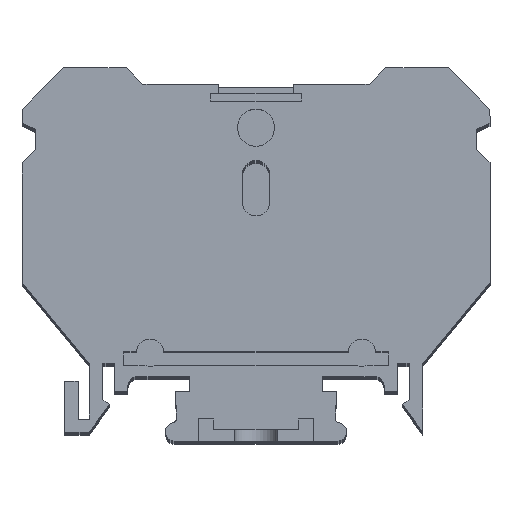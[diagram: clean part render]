
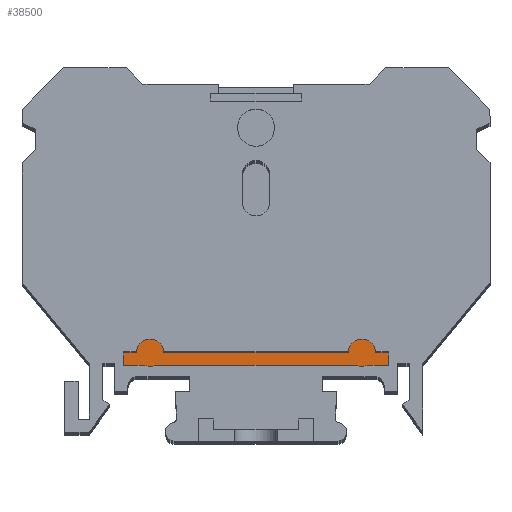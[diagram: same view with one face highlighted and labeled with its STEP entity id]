
A CAD part, top view. The second image highlights one B-rep face of the part: STEP entity #38500.
In plain terms, the highlighted planar face has unit normal (0, 0, 1).
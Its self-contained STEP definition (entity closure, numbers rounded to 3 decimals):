
#3859 = FACE_OUTER_BOUND ( 'NONE', #31428, .T. ) ;
#6266 = CARTESIAN_POINT ( 'NONE',  ( -12., 10., -1.3 ) ) ;
#6267 = PLANE ( 'NONE',  #69587 ) ;
#6272 = DIRECTION ( 'NONE',  ( 0., 0., 1. ) ) ;
#6273 = DIRECTION ( 'NONE',  ( 1., 0., 0. ) ) ;
#9017 = AXIS2_PLACEMENT_3D ( 'NONE', #9607, #9609, #9610 ) ;
#9020 = AXIS2_PLACEMENT_3D ( 'NONE', #9605, #9619, #9620 ) ;
#9269 = AXIS2_PLACEMENT_3D ( 'NONE', #19481, #19494, #19496 ) ;
#9271 = AXIS2_PLACEMENT_3D ( 'NONE', #19486, #19500, #19502 ) ;
#9599 = CARTESIAN_POINT ( 'NONE',  ( -15., 8.6, -1.3 ) ) ;
#9605 = CARTESIAN_POINT ( 'NONE',  ( 12., 10., -1.3 ) ) ;
#9606 = DIRECTION ( 'NONE',  ( 1., 0., 0. ) ) ;
#9607 = CARTESIAN_POINT ( 'NONE',  ( -12., 10., -1.3 ) ) ;
#9609 = DIRECTION ( 'NONE',  ( 0., 0., 1. ) ) ;
#9610 = DIRECTION ( 'NONE',  ( 1., 0., 0. ) ) ;
#9611 = CARTESIAN_POINT ( 'NONE',  ( -15., 10.1, -1.3 ) ) ;
#9612 = DIRECTION ( 'NONE',  ( -1., 0., 0. ) ) ;
#9613 = CARTESIAN_POINT ( 'NONE',  ( -15., 10.1, -1.3 ) ) ;
#9614 = DIRECTION ( 'NONE',  ( 0., -1., 0. ) ) ;
#9615 = CARTESIAN_POINT ( 'NONE',  ( -15., 8.6, -1.3 ) ) ;
#9616 = DIRECTION ( 'NONE',  ( 1., 0., 0. ) ) ;
#9617 = CARTESIAN_POINT ( 'NONE',  ( -15., 8.6, -1.3 ) ) ;
#9618 = DIRECTION ( 'NONE',  ( 1., 0., 0. ) ) ;
#9619 = DIRECTION ( 'NONE',  ( 0., 0., 1. ) ) ;
#9620 = DIRECTION ( 'NONE',  ( 1., 0., 0. ) ) ;
#9621 = CARTESIAN_POINT ( 'NONE',  ( -15., 10.1, -1.3 ) ) ;
#9622 = DIRECTION ( 'NONE',  ( -1., 0., 0. ) ) ;
#9623 = CARTESIAN_POINT ( 'NONE',  ( 15., 10.1, -1.3 ) ) ;
#9624 = DIRECTION ( 'NONE',  ( 0., 1., 0. ) ) ;
#9625 = CARTESIAN_POINT ( 'NONE',  ( -15., 10.1, -1.3 ) ) ;
#9626 = DIRECTION ( 'NONE',  ( -1., 0., 0. ) ) ;
#10717 = LINE ( 'NONE', #9599, #10742 ) ;
#10737 = VECTOR ( 'NONE', #9612, 1000. ) ;
#10742 = VECTOR ( 'NONE', #9606, 1000. ) ;
#10743 = LINE ( 'NONE', #9611, #10737 ) ;
#10745 = LINE ( 'NONE', #9621, #10746 ) ;
#10746 = VECTOR ( 'NONE', #9622, 1000. ) ;
#10747 = CIRCLE ( 'NONE', #9017, 1.55 ) ;
#10748 = LINE ( 'NONE', #9613, #10749 ) ;
#10749 = VECTOR ( 'NONE', #9614, 1000. ) ;
#10750 = LINE ( 'NONE', #9615, #10751 ) ;
#10751 = VECTOR ( 'NONE', #9616, 1000. ) ;
#10752 = LINE ( 'NONE', #9617, #10753 ) ;
#10753 = VECTOR ( 'NONE', #9618, 1000. ) ;
#10756 = CIRCLE ( 'NONE', #9020, 1.55 ) ;
#10757 = LINE ( 'NONE', #9623, #10758 ) ;
#10758 = VECTOR ( 'NONE', #9624, 1000. ) ;
#10759 = LINE ( 'NONE', #9625, #10760 ) ;
#10760 = VECTOR ( 'NONE', #9626, 1000. ) ;
#17900 = CIRCLE ( 'NONE', #9269, 1.55 ) ;
#17902 = CIRCLE ( 'NONE', #9271, 1.55 ) ;
#19481 = CARTESIAN_POINT ( 'NONE',  ( 12., 10., -1.3 ) ) ;
#19486 = CARTESIAN_POINT ( 'NONE',  ( -12., 10., -1.3 ) ) ;
#19494 = DIRECTION ( 'NONE',  ( 0., 0., 1. ) ) ;
#19496 = DIRECTION ( 'NONE',  ( 1., 0., 0. ) ) ;
#19500 = DIRECTION ( 'NONE',  ( 0., 0., 1. ) ) ;
#19502 = DIRECTION ( 'NONE',  ( 1., 0., 0. ) ) ;
#21946 = VERTEX_POINT ( 'NONE', #65675 ) ;
#21949 = VERTEX_POINT ( 'NONE', #65677 ) ;
#21959 = VERTEX_POINT ( 'NONE', #65683 ) ;
#21961 = VERTEX_POINT ( 'NONE', #65684 ) ;
#22532 = CARTESIAN_POINT ( 'NONE',  ( -13.547, 10.1, -1.3 ) ) ;
#22533 = CARTESIAN_POINT ( 'NONE',  ( -10.453, 10.1, -1.3 ) ) ;
#22534 = CARTESIAN_POINT ( 'NONE',  ( -15., 10.1, -1.3 ) ) ;
#22535 = CARTESIAN_POINT ( 'NONE',  ( -15., 8.6, -1.3 ) ) ;
#22536 = CARTESIAN_POINT ( 'NONE',  ( 15., 8.6, -1.3 ) ) ;
#22537 = CARTESIAN_POINT ( 'NONE',  ( 15., 10.1, -1.3 ) ) ;
#22538 = CARTESIAN_POINT ( 'NONE',  ( 13.547, 10.1, -1.3 ) ) ;
#22539 = CARTESIAN_POINT ( 'NONE',  ( 10.453, 10.1, -1.3 ) ) ;
#31428 = EDGE_LOOP ( 'NONE', ( #32065, #32066, #32067, #32068, #32069, #32070, #32071, #32072, #32073, #32074, #32075, #32076 ) ) ;
#32065 = ORIENTED_EDGE ( 'NONE', *, *, #39310, .T. ) ;
#32066 = ORIENTED_EDGE ( 'NONE', *, *, #39311, .T. ) ;
#32067 = ORIENTED_EDGE ( 'NONE', *, *, #39312, .T. ) ;
#32068 = ORIENTED_EDGE ( 'NONE', *, *, #39313, .T. ) ;
#32069 = ORIENTED_EDGE ( 'NONE', *, *, #42381, .T. ) ;
#32070 = ORIENTED_EDGE ( 'NONE', *, *, #39314, .T. ) ;
#32071 = ORIENTED_EDGE ( 'NONE', *, *, #42380, .T. ) ;
#32072 = ORIENTED_EDGE ( 'NONE', *, *, #39309, .T. ) ;
#32073 = ORIENTED_EDGE ( 'NONE', *, *, #39317, .T. ) ;
#32074 = ORIENTED_EDGE ( 'NONE', *, *, #39316, .T. ) ;
#32075 = ORIENTED_EDGE ( 'NONE', *, *, #39315, .T. ) ;
#32076 = ORIENTED_EDGE ( 'NONE', *, *, #39318, .T. ) ;
#38500 = ADVANCED_FACE ( 'NONE', ( #3859 ), #6267, .T. ) ;
#39309 = EDGE_CURVE ( 'NONE', #21959, #44529, #10717, .T. ) ;
#39310 = EDGE_CURVE ( 'NONE', #44526, #44525, #10747, .T. ) ;
#39311 = EDGE_CURVE ( 'NONE', #44525, #44527, #10743, .T. ) ;
#39312 = EDGE_CURVE ( 'NONE', #44527, #44528, #10748, .T. ) ;
#39313 = EDGE_CURVE ( 'NONE', #44528, #21946, #10750, .T. ) ;
#39314 = EDGE_CURVE ( 'NONE', #21949, #21961, #10752, .T. ) ;
#39315 = EDGE_CURVE ( 'NONE', #44531, #44532, #10756, .T. ) ;
#39316 = EDGE_CURVE ( 'NONE', #44530, #44531, #10745, .T. ) ;
#39317 = EDGE_CURVE ( 'NONE', #44529, #44530, #10757, .T. ) ;
#39318 = EDGE_CURVE ( 'NONE', #44532, #44526, #10759, .T. ) ;
#42380 = EDGE_CURVE ( 'NONE', #21961, #21959, #17900, .T. ) ;
#42381 = EDGE_CURVE ( 'NONE', #21946, #21949, #17902, .T. ) ;
#44525 = VERTEX_POINT ( 'NONE', #22532 ) ;
#44526 = VERTEX_POINT ( 'NONE', #22533 ) ;
#44527 = VERTEX_POINT ( 'NONE', #22534 ) ;
#44528 = VERTEX_POINT ( 'NONE', #22535 ) ;
#44529 = VERTEX_POINT ( 'NONE', #22536 ) ;
#44530 = VERTEX_POINT ( 'NONE', #22537 ) ;
#44531 = VERTEX_POINT ( 'NONE', #22538 ) ;
#44532 = VERTEX_POINT ( 'NONE', #22539 ) ;
#65675 = CARTESIAN_POINT ( 'NONE',  ( -12.665, 8.6, -1.3 ) ) ;
#65677 = CARTESIAN_POINT ( 'NONE',  ( -11.335, 8.6, -1.3 ) ) ;
#65683 = CARTESIAN_POINT ( 'NONE',  ( 12.665, 8.6, -1.3 ) ) ;
#65684 = CARTESIAN_POINT ( 'NONE',  ( 11.335, 8.6, -1.3 ) ) ;
#69587 = AXIS2_PLACEMENT_3D ( 'NONE', #6266, #6272, #6273 ) ;
